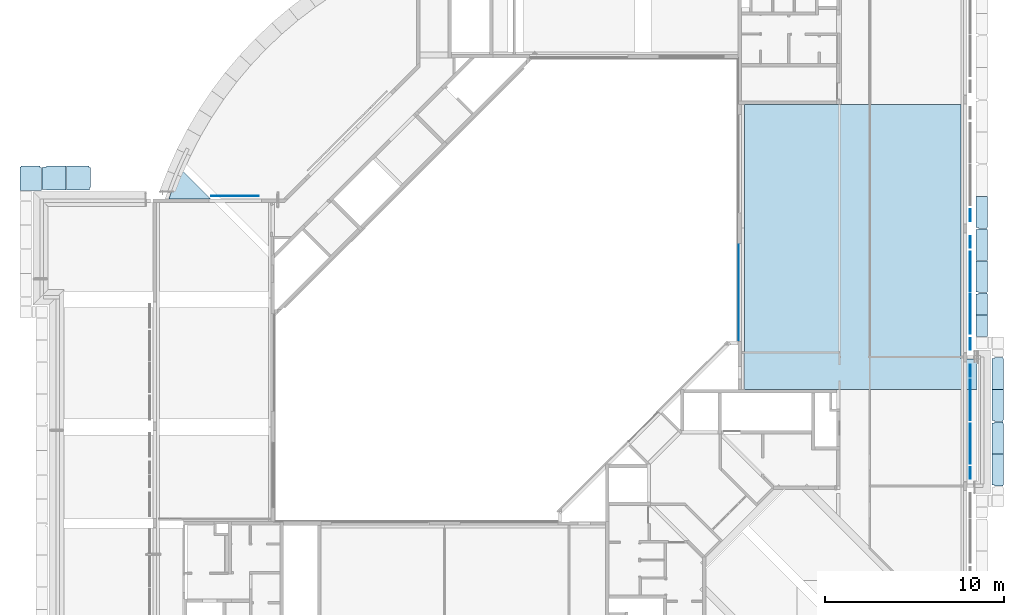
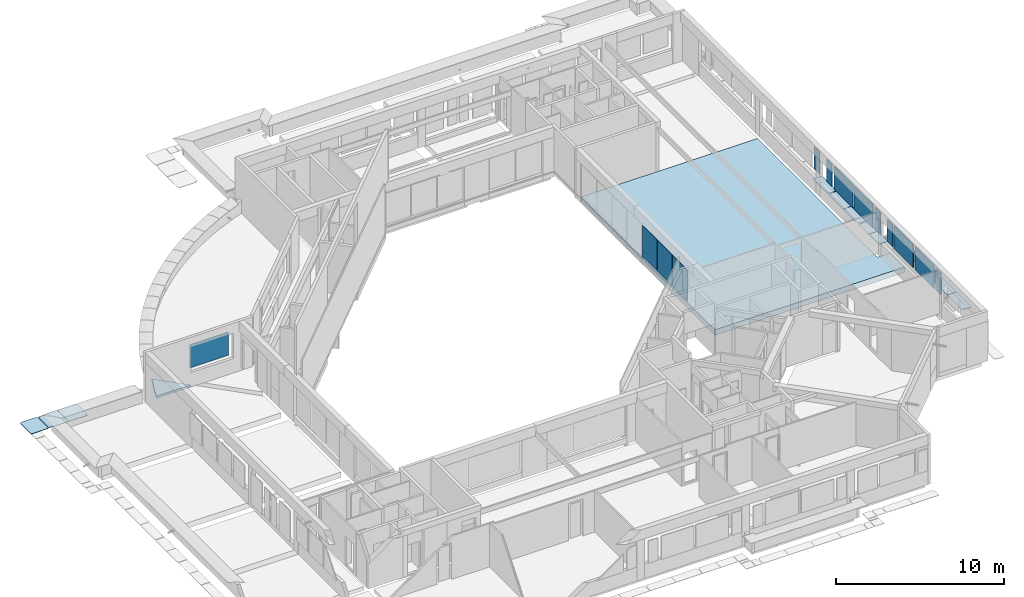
# One storey, part 5 of 38: 14 slabs, 13 plates.
"""IFC4X3_ADD2 building model written with IfcOpenShell, lengths in millimetres."""

from ifc_helpers import new_model, si_unit, point, direction, frame, frame_2d, origin_with_axes, origin_2d_with_axis, place, context, subcontext, project, spatial, polyline, circle_curve, trimmed, segment, composite_curve, rectangle, outline, extrude, source, transform, mapped, material, type_object, element, save


model = new_model("IFC4X3_ADD2")

# Units and contexts
model_context = context("Model", 3, precision=1e-05, world=origin_with_axes(), true_north=direction((0.0, 1.0)))
body_context = subcontext(model_context, "Body", "Model", "MODEL_VIEW")
ifc_project = project(units=[si_unit("LENGTHUNIT", "METRE", prefix="MILLI"), si_unit("AREAUNIT", "SQUARE_METRE"), si_unit("VOLUMEUNIT", "CUBIC_METRE"), si_unit("PLANEANGLEUNIT", "RADIAN"), si_unit("TIMEUNIT", "SECOND"), si_unit("MASSUNIT", "GRAM")], contexts=[model_context])

# Site, building, storey
site_placement = place(None, origin_with_axes())
site = spatial("IfcSite", under=ifc_project, at=site_placement, Name="Site", CompositionType="ELEMENT")
building_placement = place(site_placement, origin_with_axes())
building = spatial("IfcBuilding", under=site, at=building_placement, Name="IFC Building Story")
storey_placement = place(building_placement, frame((0.0, 0.0, 10800.0), z_axis=(0.0, 0.0, 1.0), x_axis=(1.0, 0.0, 0.0)))
storey = spatial("IfcBuildingStorey", under=building, at=storey_placement, Name="030", Elevation=10800.0)

# Slab
ifc_material_1 = material(Name="BB_Beton_Bestaand")
slab_type_1 = type_object("IfcSlabType", Name="BB_Beton_Bestaand 400", PredefinedType="FLOOR", material=ifc_material_1)
slab_1_placement = place(storey_placement, frame((-12355.00406588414, 36000.00000000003, -600.0), z_axis=(0.0, 0.0, 1.0), x_axis=(0.0, -1.0, 0.0)))
element("IfcSlab", 1, at=slab_1_placement, inside=storey, type_object=slab_type_1, Name="Floor:BB_XX_Vloer welfsels, 400 mm", ObjectType="Floor:BB_XX_Vloer welfsels, 400 mm", PredefinedType="FLOOR", context=body_context, shape_type="SweptSolid", body=[
    extrude(outline(polyline([(4163.333333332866, 4636.668021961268), (5868.333333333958, 4636.668021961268), (5868.333333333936, -8373.33604392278), (-10031.66666666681, -8373.33604392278), (-10031.66666666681, 3736.668021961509), (4163.333333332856, 3736.66802196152), (4163.333333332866, 4636.668021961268)])), frame((10031.66666666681, 8373.33604392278, 0.0), z_axis=(0.0, 0.0, 1.0), x_axis=(1.0, 0.0, 0.0)), (0.0, 0.0, 1.0), 400.0),
])

# Plates
ifc_material_2 = material(Name="BB_Glas")
shared_shape_1 = source(origin_with_axes(), body_context, "Body", "SweptSolid", [
    extrude(rectangle(XDim=1602.000000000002, YDim=652.0000000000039, at=frame_2d((0.0, 0.0), x_axis=(0.0, 1.0))), frame((0.0, 0.0, -44.0), z_axis=(0.0, 0.0, 1.0), x_axis=(1.0, 0.0, 0.0)), (0.0, 0.0, 1.0), 44.0),
])
for number, where, z_axis, x_axis in (
    (2, (287.500000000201, 28336.0, 1765.0), (1.0, 0.0, 0.0), (0.0, -1.0, 0.0)),
    (3, (287.500000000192, 22624.0, 1765.0), (1.0, 0.0, 0.0), (0.0, -1.0, 0.0)),
    (4, (287.500000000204, 29824.0, 1765.0), (1.0, 0.0, 0.0), (0.0, -1.0, 0.0)),
    (5, (287.500000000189, 21136.0, 1765.0), (1.0, 0.0, 0.0), (0.0, -1.0, 0.0)),
    (6, (287.50000000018, 15424.0, 1765.0), (1.0, 0.0, 0.0), (0.0, -1.0, 0.0)),
):
    element("IfcPlate", number, at=place(storey_placement, frame(where, z_axis=z_axis, x_axis=x_axis)), inside=storey, material=ifc_material_2, Name="BB_07.06_Buitenbeglazing, rechthoekig_GMO:07.06.72#01_Drievoudige beglazing, 44 mm, A/A*/A", ObjectType="BB_07.06_Buitenbeglazing, rechthoekig_GMO:07.06.72#01_Drievoudige beglazing, 44 mm, A/A*/A", PredefinedType="USERDEFINED", context=body_context, shape_type="MappedRepresentation", body=[
        mapped(shared_shape_1, transform((0.0, 0.0, 0.0))),
    ])
shared_shape_2 = source(origin_with_axes(), body_context, "Body", "SweptSolid", [
    extrude(rectangle(XDim=2222.0, YDim=1680.000000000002, at=origin_2d_with_axis()), frame((0.0, 0.0, -44.0), z_axis=(0.0, 0.0, 1.0), x_axis=(1.0, 0.0, 0.0)), (0.0, 0.0, 1.0), 44.0),
])
for number, where, z_axis, x_axis in (
    (7, (287.500000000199, 26661.0, 1765.0), (1.0, 0.0, 0.0), (0.0, -1.0, 0.0)),
    (8, (287.500000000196, 24299.0, 1765.0), (1.0, 0.0, 0.0), (0.0, -1.0, 0.0)),
):
    element("IfcPlate", number, at=place(storey_placement, frame(where, z_axis=z_axis, x_axis=x_axis)), inside=storey, material=ifc_material_2, Name="BB_07.06_Buitenbeglazing, rechthoekig_GMO:07.06.72#01_Drievoudige beglazing, 44 mm, A/A*/A", ObjectType="BB_07.06_Buitenbeglazing, rechthoekig_GMO:07.06.72#01_Drievoudige beglazing, 44 mm, A/A*/A", PredefinedType="USERDEFINED", context=body_context, shape_type="MappedRepresentation", body=[
        mapped(shared_shape_2, transform((0.0, 0.0, 0.0))),
    ])
shared_shape_3 = source(origin_with_axes(), body_context, "Body", "SweptSolid", [
    extrude(rectangle(XDim=2256.0, YDim=1736.000000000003, at=frame_2d((0.0, 0.0), x_axis=(0.0, 1.0))), frame((0.0, 0.0, -17.0), z_axis=(0.0, 0.0, 1.0), x_axis=(1.0, 0.0, 0.0)), (0.0, 0.0, 1.0), 17.0),
])
for number, where, z_axis, x_axis in (
    (9, (-12671.5040658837, 25500.0, 1475.0), (-1.0, 0.0, 0.0), (0.0, 1.0, 0.0)),
    (10, (-12671.5040658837, 23700.0, 1475.0), (-1.0, 0.0, 0.0), (0.0, 1.0, 0.0)),
    (11, (-12671.5040658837, 27300.0, 1475.0), (-1.0, 0.0, 0.0), (0.0, 1.0, 0.0)),
):
    element("IfcPlate", number, at=place(storey_placement, frame(where, z_axis=z_axis, x_axis=x_axis)), inside=storey, material=ifc_material_2, Name="BB_10.10_Binnenbeglazing, rechthoekig_GMO:10.10.41#02_Enkelvoudige beglazing, 2B2, EI30, 40dB", ObjectType="BB_10.10_Binnenbeglazing, rechthoekig_GMO:10.10.41#02_Enkelvoudige beglazing, 2B2, EI30, 40dB", PredefinedType="USERDEFINED", context=body_context, shape_type="MappedRepresentation", body=[
        mapped(shared_shape_3, transform((0.0, 0.0, 0.0))),
    ])
shared_shape_4 = source(origin_with_axes(), body_context, "Body", "SweptSolid", [
    extrude(rectangle(XDim=2252.0, YDim=1680.000000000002, at=origin_2d_with_axis()), frame((0.0, 0.0, -44.0), z_axis=(0.0, 0.0, 1.0), x_axis=(1.0, 0.0, 0.0)), (0.0, 0.0, 1.0), 44.0),
])
for number, where, z_axis, x_axis in (
    (12, (287.500000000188, 19506.0, 1765.0), (1.0, 0.0, 0.0), (0.0, -1.0, 0.0)),
    (13, (287.500000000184, 17054.0, 1765.0), (1.0, 0.0, 0.0), (0.0, -1.0, 0.0)),
):
    element("IfcPlate", number, at=place(storey_placement, frame(where, z_axis=z_axis, x_axis=x_axis)), inside=storey, material=ifc_material_2, Name="BB_07.06_Buitenbeglazing, rechthoekig_GMO:07.06.72#01_Drievoudige beglazing, 44 mm, A/A*/A", ObjectType="BB_07.06_Buitenbeglazing, rechthoekig_GMO:07.06.72#01_Drievoudige beglazing, 44 mm, A/A*/A", PredefinedType="USERDEFINED", context=body_context, shape_type="MappedRepresentation", body=[
        mapped(shared_shape_4, transform((0.0, 0.0, 0.0))),
    ])
shared_shape_5 = source(origin_with_axes(), body_context, "Body", "SweptSolid", [
    extrude(rectangle(XDim=2660.0, YDim=1680.000000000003, at=origin_2d_with_axis()), frame((0.0, 0.0, -44.0), z_axis=(0.0, 0.0, 1.0), x_axis=(1.0, 0.0, 0.0)), (0.0, 0.0, 1.0), 44.0),
])
plate_placement = place(storey_placement, frame((-40800.0, 30873.5000000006, 1765.0), z_axis=(0.0, -1.0, 0.0), x_axis=(-1.0, 0.0, 0.0)))
element("IfcPlate", 14, at=plate_placement, inside=storey, material=ifc_material_2, Name="BB_07.06_Buitenbeglazing, rechthoekig_GMO:07.06.72#01_Drievoudige beglazing, 44 mm, A/A*/A", ObjectType="BB_07.06_Buitenbeglazing, rechthoekig_GMO:07.06.72#01_Drievoudige beglazing, 44 mm, A/A*/A", PredefinedType="USERDEFINED", context=body_context, shape_type="MappedRepresentation", body=[
    mapped(shared_shape_5, transform((0.0, 0.0, 0.0))),
])

# Slabs
slab_type_2 = type_object("IfcSlabType", Name="BB_Beton_Bestaand 150", PredefinedType="FLOOR", material=ifc_material_1)
slab_2_placement = place(storey_placement, frame((-45027.45266178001, 31248.01297304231, -350.0000000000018), z_axis=(0.0, 0.0, 1.0), x_axis=(0.7071067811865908, -0.7071067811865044, 0.0)))
element("IfcSlab", 15, at=slab_2_placement, inside=storey, type_object=slab_type_2, Name="Floor:BB_XX_Vloer uit beton, 150 mm", ObjectType="Floor:BB_XX_Vloer uit beton, 150 mm", PredefinedType="FLOOR", context=body_context, shape_type="SweptSolid", body=[
    extrude(outline(composite_curve([segment(trimmed(circle_curve(origin_2d_with_axis(), 22158.17800304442), [point((-19865.69719477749, -9815.239547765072))], [point((-20605.34923455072, -8148.891663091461))], False, "CARTESIAN"), True, "CONTINUOUS"), segment(polyline([(-20605.34923455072, -8148.891663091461), (-18199.34931010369, -8148.891663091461)]), True, "CONTINUOUS"), segment(polyline([(-18199.34931010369, -8148.891663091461), (-19865.69719477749, -9815.239547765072)]), True, "CONTINUOUS")], self_intersect=False)), frame((20605.34923455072, 9815.239547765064, 1.818989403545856e-12), z_axis=(0.0, 0.0, 1.0), x_axis=(1.0, 0.0, 0.0)), (0.0, 0.0, 1.0), 150.0000000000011),
])
ifc_material_3 = material(Name="Steel, Galvanized - looprooster")
slab_type_3 = type_object("IfcSlabType", Name="Steel, Galvanized - looprooster 30", PredefinedType="FLOOR", material=ifc_material_3)
slab_3_placement = place(storey_placement, frame((-52819.99839785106, 32575.00048070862, -350.0), z_axis=(0.0, 0.0, 1.0), x_axis=(0.0, -1.0, 0.0)))
element("IfcSlab", 16, at=slab_3_placement, inside=storey, type_object=slab_type_3, Name="Floor:GVH - Looprooster 30 mm", ObjectType="Floor:GVH - Looprooster 30 mm", PredefinedType="FLOOR", context=body_context, shape_type="SweptSolid", body=[
    extrude(outline(polyline([(-294.1247196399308, 607.9989790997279), (987.3741589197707, 607.9989790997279), (987.3741589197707, -592.9981599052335), (-324.1247196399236, -592.9981599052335), (-324.1247196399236, -547.9997982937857), (-369.1247196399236, -547.9997982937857), (-369.1247196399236, 532.9989790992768), (-294.1247196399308, 532.9989790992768), (-294.1247196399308, 607.9989790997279)])), frame((369.1247196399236, 592.9981599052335, 0.0), z_axis=(0.0, 0.0, 1.0), x_axis=(1.0, 0.0, 0.0)), (0.0, 0.0, 1.0), 29.99999999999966),
])
slab_4_placement = place(storey_placement, frame((-51581.00125884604, 32575.00048070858, -350.0), z_axis=(0.0, 0.0, 1.0), x_axis=(0.0, -1.0, 0.0)))
element("IfcSlab", 17, at=slab_4_placement, inside=storey, type_object=slab_type_3, Name="Floor:GVH - Looprooster 30 mm", ObjectType="Floor:GVH - Looprooster 30 mm", PredefinedType="FLOOR", context=body_context, shape_type="SweptSolid", body=[
    extrude(outline(polyline([(798.0, -132.1998445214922), (753.0, -132.1998445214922), (753.0, -382.1998445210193), (-481.9999999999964, -382.1998445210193), (-481.9999999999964, -307.1998445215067), (-511.9999999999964, -307.1998445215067), (-511.9999999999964, -132.1998445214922), (-556.9999999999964, -132.1998445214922), (-556.9999999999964, 953.7993780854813), (798.0, 953.7993780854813), (798.0, -132.1998445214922)])), frame((556.9999999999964, 382.1998445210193, 0.0), z_axis=(0.0, 0.0, 1.0), x_axis=(1.0, 0.0, 0.0)), (0.0, 0.0, 1.0), 29.99999999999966),
])
slab_5_placement = place(storey_placement, frame((-50233.0032588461, 32575.00048070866, -350.0), z_axis=(0.0, 0.0, 1.0), x_axis=(0.0, -1.0, 0.0)))
element("IfcSlab", 18, at=slab_5_placement, inside=storey, type_object=slab_type_3, Name="Floor:GVH - Looprooster 30 mm", ObjectType="Floor:GVH - Looprooster 30 mm", PredefinedType="FLOOR", context=body_context, shape_type="SweptSolid", body=[
    extrude(outline(polyline([(678.9996012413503, 264.601087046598), (824.000099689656, 264.601087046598), (824.000099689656, -1018.402688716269), (-530.9999003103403, -1018.402688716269), (-530.9999003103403, 169.6005338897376), (-515.9999003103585, 169.6005338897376), (-515.9999003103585, 254.6005338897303), (-455.9999003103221, 254.6005338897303), (-455.9999003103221, 329.6005338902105), (678.9996012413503, 329.6005338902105), (678.9996012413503, 264.601087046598)])), frame((530.9999003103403, 1018.402688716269, 0.0), z_axis=(0.0, 0.0, 1.0), x_axis=(1.0, 0.0, 0.0)), (0.0, 0.0, 1.0), 29.99999999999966),
])
slab_6_placement = place(storey_placement, frame((589.998741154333, 29064.99996376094, -350.0), z_axis=(0.0, 0.0, 1.0), x_axis=(0.0, -1.0, 0.0)))
element("IfcSlab", 19, at=slab_6_placement, inside=storey, type_object=slab_type_3, Name="Floor:GVH - Looprooster 30 mm", ObjectType="Floor:GVH - Looprooster 30 mm", PredefinedType="FLOOR", context=body_context, shape_type="SweptSolid", body=[
    extrude(outline(polyline([(-420.1244818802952, 282.4992180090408), (1312.373518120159, 282.4992180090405), (1312.373518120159, -347.5004386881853), (-420.1245543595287, -347.5004386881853), (-420.1245543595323, -202.4983406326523), (-472.1244818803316, -202.4983406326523), (-472.1244818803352, 267.4995613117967), (-420.1244818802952, 267.4995613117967), (-420.1244818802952, 282.4992180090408)])), frame((472.1244818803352, 347.5004386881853, 0.0), z_axis=(0.0, 0.0, 1.0), x_axis=(1.0, 0.0, 0.0)), (0.0, 0.0, 1.0), 29.99999999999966),
])
slab_7_placement = place(storey_placement, frame((589.998741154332, 25464.99996376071, -350.0), z_axis=(0.0, 0.0, 1.0), x_axis=(0.0, -1.0, 0.0)))
element("IfcSlab", 20, at=slab_7_placement, inside=storey, type_object=slab_type_3, Name="Floor:GVH - Looprooster 30 mm", ObjectType="Floor:GVH - Looprooster 30 mm", PredefinedType="FLOOR", context=body_context, shape_type="SweptSolid", body=[
    extrude(outline(polyline([(-275.8744909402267, 282.499218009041), (879.623509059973, 282.499218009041), (879.623509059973, -347.5004386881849), (-275.8745271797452, -347.5004386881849), (-275.8745271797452, -202.4983406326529), (-327.8744909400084, -202.4983406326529), (-327.874490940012, 267.499561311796), (-275.8744909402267, 267.499561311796), (-275.8744909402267, 282.499218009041)])), frame((327.874490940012, 347.5004386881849, 0.0), z_axis=(0.0, 0.0, 1.0), x_axis=(1.0, 0.0, 0.0)), (0.0, 0.0, 1.0), 29.99999999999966),
])
slab_8_placement = place(storey_placement, frame((589.998733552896, 30879.49796376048, -350.0), z_axis=(0.0, 0.0, 1.0), x_axis=(0.0, -1.0, 0.0)))
element("IfcSlab", 21, at=slab_8_placement, inside=storey, type_object=slab_type_3, Name="Floor:GVH - Looprooster 30 mm", ObjectType="Floor:GVH - Looprooster 30 mm", PredefinedType="FLOOR", context=body_context, shape_type="SweptSolid", body=[
    extrude(outline(polyline([(472.1224909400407, -202.4983406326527), (420.1225271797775, -202.4983406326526), (420.1225271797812, -347.5004386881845), (-1312.371509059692, -347.5004386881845), (-1312.371509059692, 282.4992180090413), (420.1264909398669, 282.4992180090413), (420.1264909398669, 267.4995613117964), (472.1224909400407, 267.4995613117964), (472.1224909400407, -202.4983406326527)])), frame((1312.371509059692, 347.5004386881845, 0.0), z_axis=(0.0, 0.0, 1.0), x_axis=(1.0, 0.0, 0.0)), (0.0, 0.0, 1.0), 29.99999999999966),
])
slab_9_placement = place(storey_placement, frame((589.998741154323, 27279.49796376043, -350.0), z_axis=(0.0, 0.0, 1.0), x_axis=(0.0, -1.0, 0.0)))
element("IfcSlab", 22, at=slab_9_placement, inside=storey, type_object=slab_type_3, Name="Floor:GVH - Looprooster 30 mm", ObjectType="Floor:GVH - Looprooster 30 mm", PredefinedType="FLOOR", context=body_context, shape_type="SweptSolid", body=[
    extrude(outline(polyline([(471.9994999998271, -202.4983406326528), (420.4995000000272, -202.4983406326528), (420.4995000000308, -347.5004386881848), (-1312.498499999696, -347.5004386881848), (-1312.498499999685, 282.499218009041), (419.9994999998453, 282.4992180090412), (419.9994999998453, 267.4995613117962), (471.9994999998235, 267.4995613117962), (471.9994999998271, -202.4983406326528)])), frame((1312.498499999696, 347.5004386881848, 0.0), z_axis=(0.0, 0.0, 1.0), x_axis=(1.0, 0.0, 0.0)), (0.0, 0.0, 1.0), 29.99999999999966),
])
slab_10_placement = place(storey_placement, frame((589.998397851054, 24255.9978207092, -350.0), z_axis=(0.0, 0.0, 1.0), x_axis=(0.0, -1.0, 0.0)))
element("IfcSlab", 23, at=slab_10_placement, inside=storey, type_object=slab_type_3, Name="Floor:GVH - Looprooster 30 mm", ObjectType="Floor:GVH - Looprooster 30 mm", PredefinedType="FLOOR", context=body_context, shape_type="SweptSolid", body=[
    extrude(rectangle(XDim=1207.998000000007, YDim=629.9996566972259, at=frame_2d((0.0, 0.0), x_axis=(-1.0, 0.0))), frame((603.9990000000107, 314.9998283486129, 0.0), z_axis=(0.0, 0.0, 1.0), x_axis=(1.0, 0.0, 0.0)), (0.0, 0.0, 1.0), 29.99999999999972),
])
slab_11_placement = place(storey_placement, frame((1489.998733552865, 21864.99979803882, -350.0), z_axis=(0.0, 0.0, 1.0), x_axis=(0.0, -1.0, 0.0)))
element("IfcSlab", 24, at=slab_11_placement, inside=storey, type_object=slab_type_3, Name="Floor:GVH - Looprooster 30 mm", ObjectType="Floor:GVH - Looprooster 30 mm", PredefinedType="FLOOR", context=body_context, shape_type="SweptSolid", body=[
    extrude(outline(polyline([(-419.9993899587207, 282.4992180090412), (1312.498408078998, 282.4992180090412), (1312.498408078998, -347.5004386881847), (-420.4996281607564, -347.5004386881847), (-420.4996281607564, -202.4983406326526), (-471.9993899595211, -202.4983406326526), (-471.9993899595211, 267.4995613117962), (-419.9993899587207, 267.4995613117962), (-419.9993899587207, 282.4992180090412)])), frame((471.9993899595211, 347.5004386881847, 0.0), z_axis=(0.0, 0.0, 1.0), x_axis=(1.0, 0.0, 0.0)), (0.0, 0.0, 1.0), 29.99999999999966),
])
slab_12_placement = place(storey_placement, frame((1489.998725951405, 18265.00125885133, -350.0), z_axis=(0.0, 0.0, 1.0), x_axis=(0.0, -1.0, 0.0)))
element("IfcSlab", 25, at=slab_12_placement, inside=storey, type_object=slab_type_3, Name="Floor:GVH - Looprooster 30 mm", ObjectType="Floor:GVH - Looprooster 30 mm", PredefinedType="FLOOR", context=body_context, shape_type="SweptSolid", body=[
    extrude(outline(polyline([(-393.7494248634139, 282.4992180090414), (1303.248885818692, 282.4992180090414), (1303.248885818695, -347.5004386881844), (-428.7490516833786, -347.5004386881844), (-428.7490516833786, -202.4983406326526), (-480.7504092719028, -202.4983406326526), (-480.7504092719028, 267.4995613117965), (-393.7494248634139, 267.4995613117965), (-393.7494248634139, 282.4992180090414)])), frame((480.7504092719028, 347.5004386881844, 0.0), z_axis=(0.0, 0.0, 1.0), x_axis=(1.0, 0.0, 0.0)), (0.0, 0.0, 1.0), 29.99999999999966),
])
slab_13_placement = place(storey_placement, frame((1489.998733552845, 20079.99796376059, -350.0), z_axis=(0.0, 0.0, 1.0), x_axis=(0.0, -1.0, 0.0)))
element("IfcSlab", 26, at=slab_13_placement, inside=storey, type_object=slab_type_3, Name="Floor:GVH - Looprooster 30 mm", ObjectType="Floor:GVH - Looprooster 30 mm", PredefinedType="FLOOR", context=body_context, shape_type="SweptSolid", body=[
    extrude(outline(polyline([(480.999500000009, -202.4983406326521), (428.999499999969, -202.4983406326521), (428.999499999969, -347.5004386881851), (-1303.998499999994, -347.5004386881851), (-1303.998499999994, 282.4992180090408), (393.9994999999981, 282.4992180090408), (393.9994999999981, 267.4995613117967), (480.9995000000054, 267.4995613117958), (480.999500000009, -202.4983406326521)])), frame((1303.998499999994, 347.5004386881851, 0.0), z_axis=(0.0, 0.0, 1.0), x_axis=(1.0, 0.0, 0.0)), (0.0, 0.0, 1.0), 29.99999999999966),
])
slab_14_placement = place(storey_placement, frame((1489.998725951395, 16480.50196376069, -350.0), z_axis=(0.0, 0.0, 1.0), x_axis=(0.0, -1.0, 0.0)))
element("IfcSlab", 27, at=slab_14_placement, inside=storey, type_object=slab_type_3, Name="Floor:GVH - Looprooster 30 mm", ObjectType="Floor:GVH - Looprooster 30 mm", PredefinedType="FLOOR", context=body_context, shape_type="SweptSolid", body=[
    extrude(outline(polyline([(472.3755776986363, -202.4983406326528), (420.3755776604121, -202.4983406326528), (420.3755776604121, -347.5004386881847), (-1313.126422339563, -347.5004386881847), (-1313.126422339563, 282.4992180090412), (420.3752669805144, 282.4992180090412), (420.3752669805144, 267.4995613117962), (472.3755776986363, 267.4995613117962), (472.3755776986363, -202.4983406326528)])), frame((1313.126422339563, 347.5004386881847, 0.0), z_axis=(0.0, 0.0, 1.0), x_axis=(1.0, 0.0, 0.0)), (0.0, 0.0, 1.0), 29.99999999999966),
])

save(model, "model.ifc")
